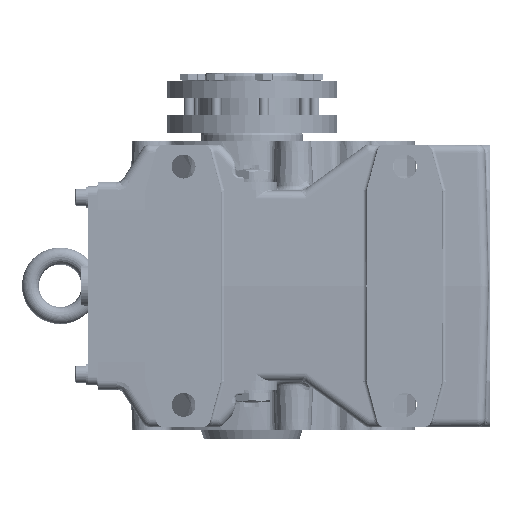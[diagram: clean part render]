
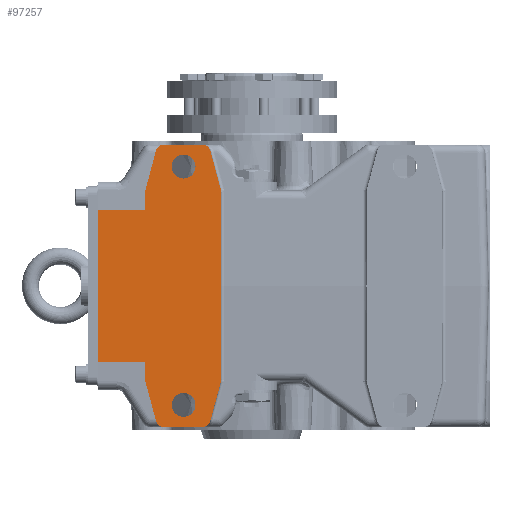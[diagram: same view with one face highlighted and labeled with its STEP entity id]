
A CAD part, left-side view. The second image highlights one B-rep face of the part: STEP entity #97257.
In plain terms, the highlighted planar face has unit normal (-1, 0, 0).
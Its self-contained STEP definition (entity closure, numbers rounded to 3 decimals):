
#53850=CARTESIAN_POINT('',(-90.,24.256,-79.297));
#53851=VERTEX_POINT('',#53850);
#53852=CARTESIAN_POINT('',(-90.,29.085,-83.));
#53853=VERTEX_POINT('',#53852);
#53854=CARTESIAN_POINT('',(-90.,29.085,-78.));
#53855=DIRECTION('',(1.0,0.0,0.0));
#53856=DIRECTION('',(0.0,-0.609,-0.794));
#53857=AXIS2_PLACEMENT_3D('',#53854,#53855,#53856);
#53858=CIRCLE('',#53857,5.0);
#53859=EDGE_CURVE('',#53851,#53853,#53858,.T.);
#53890=CARTESIAN_POINT('',(-90.,51.415,-83.));
#53891=VERTEX_POINT('',#53890);
#53892=CARTESIAN_POINT('',(-90.,29.085,-83.));
#53893=DIRECTION('',(0.0,1.0,0.0));
#53894=VECTOR('',#53893,22.331);
#53895=LINE('',#53892,#53894);
#53896=EDGE_CURVE('',#53853,#53891,#53895,.T.);
#54561=CARTESIAN_POINT('',(-90.,18.171,-56.637));
#54562=VERTEX_POINT('',#54561);
#54563=CARTESIAN_POINT('',(-90.0,18.171,-56.637));
#54564=DIRECTION('',(0.0,0.259,-0.966));
#54565=VECTOR('',#54564,23.462);
#54566=LINE('',#54563,#54565);
#54567=EDGE_CURVE('',#54562,#53851,#54566,.T.);
#54601=CARTESIAN_POINT('',(-90.,18.,-55.34));
#54602=VERTEX_POINT('',#54601);
#54603=CARTESIAN_POINT('',(-90.,23.,-55.34));
#54604=DIRECTION('',(1.0,0.0,0.0));
#54605=DIRECTION('',(0.0,-0.991,-0.131));
#54606=AXIS2_PLACEMENT_3D('',#54603,#54604,#54605);
#54607=CIRCLE('',#54606,5.0);
#54608=EDGE_CURVE('',#54602,#54562,#54607,.T.);
#54634=CARTESIAN_POINT('',(-90.,18.,-17.838));
#54635=VERTEX_POINT('',#54634);
#54636=CARTESIAN_POINT('',(-90.0,18.,-17.838));
#54637=DIRECTION('',(0.0,0.0,-1.0));
#54638=VECTOR('',#54637,37.503);
#54639=LINE('',#54636,#54638);
#54640=EDGE_CURVE('',#54635,#54602,#54639,.T.);
#54657=CARTESIAN_POINT('',(-90.,18.171,56.637));
#54658=VERTEX_POINT('',#54657);
#54659=CARTESIAN_POINT('',(-90.,18.,55.34));
#54660=VERTEX_POINT('',#54659);
#54661=CARTESIAN_POINT('',(-90.,23.,55.34));
#54662=DIRECTION('',(1.0,0.0,0.0));
#54663=DIRECTION('',(0.0,-0.991,0.131));
#54664=AXIS2_PLACEMENT_3D('',#54661,#54662,#54663);
#54665=CIRCLE('',#54664,5.0);
#54666=EDGE_CURVE('',#54658,#54660,#54665,.T.);
#58496=CARTESIAN_POINT('',(-90.,24.256,79.297));
#58497=VERTEX_POINT('',#58496);
#58498=CARTESIAN_POINT('',(-90.0,24.256,79.297));
#58499=DIRECTION('',(0.0,-0.259,-0.966));
#58500=VECTOR('',#58499,23.462);
#58501=LINE('',#58498,#58500);
#58502=EDGE_CURVE('',#58497,#54658,#58501,.T.);
#58729=CARTESIAN_POINT('',(-90.,17.945,0.));
#58730=VERTEX_POINT('',#58729);
#58731=CARTESIAN_POINT('',(-90.,16.,-17.838));
#58732=DIRECTION('',(-1.0,0.0,0.0));
#58733=DIRECTION('',(0.0,0.0,1.0));
#58734=AXIS2_PLACEMENT_3D('',#58731,#58732,#58733);
#58735=ELLIPSE('',#58734,76.403,2.0);
#58736=EDGE_CURVE('',#58730,#54635,#58735,.T.);
#58864=CARTESIAN_POINT('',(-90.,18.,17.838));
#58865=VERTEX_POINT('',#58864);
#58866=CARTESIAN_POINT('',(-90.,16.,17.838));
#58867=DIRECTION('',(-1.0,0.0,0.0));
#58868=DIRECTION('',(0.0,0.0,-1.0));
#58869=AXIS2_PLACEMENT_3D('',#58866,#58867,#58868);
#58870=ELLIPSE('',#58869,76.403,2.0);
#58871=EDGE_CURVE('',#58865,#58730,#58870,.T.);
#78901=CARTESIAN_POINT('',(-90.,56.244,-79.297));
#78902=VERTEX_POINT('',#78901);
#78903=CARTESIAN_POINT('',(-90.,62.329,-56.637));
#78904=VERTEX_POINT('',#78903);
#78905=CARTESIAN_POINT('',(-90.,56.244,-79.297));
#78906=DIRECTION('',(0.0,0.259,0.966));
#78907=VECTOR('',#78906,23.462);
#78908=LINE('',#78905,#78907);
#78909=EDGE_CURVE('',#78902,#78904,#78908,.T.);
#78940=CARTESIAN_POINT('',(-90.,51.415,-78.));
#78941=DIRECTION('',(1.0,0.0,0.0));
#78942=DIRECTION('',(0.0,0.609,-0.794));
#78943=AXIS2_PLACEMENT_3D('',#78940,#78941,#78942);
#78944=CIRCLE('',#78943,5.);
#78945=EDGE_CURVE('',#53891,#78902,#78944,.T.);
#96568=CARTESIAN_POINT('',(-90.,29.085,83.));
#96569=VERTEX_POINT('',#96568);
#96570=CARTESIAN_POINT('',(-90.,29.085,78.));
#96571=DIRECTION('',(1.0,0.0,0.0));
#96572=DIRECTION('',(0.0,-0.609,0.794));
#96573=AXIS2_PLACEMENT_3D('',#96570,#96571,#96572);
#96574=CIRCLE('',#96573,5.0);
#96575=EDGE_CURVE('',#96569,#58497,#96574,.T.);
#96593=CARTESIAN_POINT('',(-90.,51.415,83.));
#96594=VERTEX_POINT('',#96593);
#96595=CARTESIAN_POINT('',(-90.,51.415,83.));
#96596=DIRECTION('',(0.0,-1.0,0.0));
#96597=VECTOR('',#96596,22.331);
#96598=LINE('',#96595,#96597);
#96599=EDGE_CURVE('',#96594,#96569,#96598,.T.);
#96621=CARTESIAN_POINT('',(-90.0,18.,55.34));
#96622=DIRECTION('',(0.0,0.0,-1.0));
#96623=VECTOR('',#96622,37.503);
#96624=LINE('',#96621,#96623);
#96625=EDGE_CURVE('',#54660,#58865,#96624,.T.);
#96637=CARTESIAN_POINT('',(-90.,56.244,79.297));
#96638=VERTEX_POINT('',#96637);
#96639=CARTESIAN_POINT('',(-90.,51.415,78.));
#96640=DIRECTION('',(1.0,0.0,0.0));
#96641=DIRECTION('',(0.0,0.609,0.794));
#96642=AXIS2_PLACEMENT_3D('',#96639,#96640,#96641);
#96643=CIRCLE('',#96642,5.);
#96644=EDGE_CURVE('',#96638,#96594,#96643,.T.);
#96662=CARTESIAN_POINT('',(-90.,62.329,56.637));
#96663=VERTEX_POINT('',#96662);
#96664=CARTESIAN_POINT('',(-90.,62.329,56.637));
#96665=DIRECTION('',(0.0,-0.259,0.966));
#96666=VECTOR('',#96665,23.462);
#96667=LINE('',#96664,#96666);
#96668=EDGE_CURVE('',#96663,#96638,#96667,.T.);
#96694=CARTESIAN_POINT('',(-90.,62.5,55.34));
#96695=VERTEX_POINT('',#96694);
#96696=CARTESIAN_POINT('',(-90.,57.5,55.34));
#96697=DIRECTION('',(1.0,0.0,0.0));
#96698=DIRECTION('',(0.0,0.991,0.131));
#96699=AXIS2_PLACEMENT_3D('',#96696,#96697,#96698);
#96700=CIRCLE('',#96699,5.0);
#96701=EDGE_CURVE('',#96695,#96663,#96700,.T.);
#96727=CARTESIAN_POINT('',(-90.,62.5,-55.34));
#96728=VERTEX_POINT('',#96727);
#96729=CARTESIAN_POINT('',(-90.,62.5,-44.812));
#96730=VERTEX_POINT('',#96729);
#96731=CARTESIAN_POINT('',(-90.,62.5,-55.34));
#96732=DIRECTION('',(0.0,0.0,1.0));
#96733=VECTOR('',#96732,10.529);
#96734=LINE('',#96731,#96733);
#96735=EDGE_CURVE('',#96728,#96730,#96734,.T.);
#96759=CARTESIAN_POINT('',(-90.,62.5,44.812));
#96760=VERTEX_POINT('',#96759);
#96761=CARTESIAN_POINT('',(-90.,62.5,44.812));
#96762=DIRECTION('',(0.0,0.0,1.0));
#96763=VECTOR('',#96762,10.529);
#96764=LINE('',#96761,#96763);
#96765=EDGE_CURVE('',#96760,#96695,#96764,.T.);
#96782=CARTESIAN_POINT('',(-90.0,90.0,44.812));
#96783=VERTEX_POINT('',#96782);
#96790=CARTESIAN_POINT('',(-90.0,90.0,44.812));
#96791=DIRECTION('',(0.0,-1.0,0.0));
#96792=VECTOR('',#96791,27.5);
#96793=LINE('',#96790,#96792);
#96794=EDGE_CURVE('',#96783,#96760,#96793,.T.);
#96811=CARTESIAN_POINT('',(-90.0,90.0,-44.812));
#96812=VERTEX_POINT('',#96811);
#96839=CARTESIAN_POINT('',(-90.0,62.5,-44.812));
#96840=DIRECTION('',(0.0,1.0,0.0));
#96841=VECTOR('',#96840,27.5);
#96842=LINE('',#96839,#96841);
#96843=EDGE_CURVE('',#96730,#96812,#96842,.T.);
#96853=CARTESIAN_POINT('',(-90.,57.5,-55.34));
#96854=DIRECTION('',(1.0,0.0,0.0));
#96855=DIRECTION('',(0.0,0.991,-0.131));
#96856=AXIS2_PLACEMENT_3D('',#96853,#96854,#96855);
#96857=CIRCLE('',#96856,5.);
#96858=EDGE_CURVE('',#78904,#96728,#96857,.T.);
#97200=CARTESIAN_POINT('',(-90.,-15.242,0.735));
#97201=DIRECTION('',(1.0,0.0,0.0));
#97202=DIRECTION('',(0.0,0.0,-1.0));
#97203=AXIS2_PLACEMENT_3D('',#97200,#97201,#97202);
#97204=PLANE('',#97203);
#97205=CARTESIAN_POINT('',(-90.,90.0,44.812));
#97206=DIRECTION('',(0.0,0.0,-1.0));
#97207=VECTOR('',#97206,89.623);
#97208=LINE('',#97205,#97207);
#97209=EDGE_CURVE('',#96783,#96812,#97208,.T.);
#97210=ORIENTED_EDGE('',*,*,#97209,.T.);
#97211=ORIENTED_EDGE('',*,*,#96843,.F.);
#97212=ORIENTED_EDGE('',*,*,#96735,.F.);
#97213=ORIENTED_EDGE('',*,*,#96858,.F.);
#97214=ORIENTED_EDGE('',*,*,#78909,.F.);
#97215=ORIENTED_EDGE('',*,*,#78945,.F.);
#97216=ORIENTED_EDGE('',*,*,#53896,.F.);
#97217=ORIENTED_EDGE('',*,*,#53859,.F.);
#97218=ORIENTED_EDGE('',*,*,#54567,.F.);
#97219=ORIENTED_EDGE('',*,*,#54608,.F.);
#97220=ORIENTED_EDGE('',*,*,#54640,.F.);
#97221=ORIENTED_EDGE('',*,*,#58736,.F.);
#97222=ORIENTED_EDGE('',*,*,#58871,.F.);
#97223=ORIENTED_EDGE('',*,*,#96625,.F.);
#97224=ORIENTED_EDGE('',*,*,#54666,.F.);
#97225=ORIENTED_EDGE('',*,*,#58502,.F.);
#97226=ORIENTED_EDGE('',*,*,#96575,.F.);
#97227=ORIENTED_EDGE('',*,*,#96599,.F.);
#97228=ORIENTED_EDGE('',*,*,#96644,.F.);
#97229=ORIENTED_EDGE('',*,*,#96668,.F.);
#97230=ORIENTED_EDGE('',*,*,#96701,.F.);
#97231=ORIENTED_EDGE('',*,*,#96765,.F.);
#97232=ORIENTED_EDGE('',*,*,#96794,.F.);
#97233=EDGE_LOOP('',(#97210,#97211,#97212,#97213,#97214,#97215,#97216,#97217,#97218,#97219,#97220,#97221,#97222,#97223,#97224,#97225,#97226,#97227,#97228,#97229,#97230,#97231,#97232));
#97234=FACE_OUTER_BOUND('',#97233,.T.);
#97235=CARTESIAN_POINT('',(-90.,40.0,-63.0));
#97236=VERTEX_POINT('',#97235);
#97237=CARTESIAN_POINT('',(-90.,40.0,-70.0));
#97238=DIRECTION('',(1.0,0.0,0.0));
#97239=DIRECTION('',(0.0,0.0,1.0));
#97240=AXIS2_PLACEMENT_3D('',#97237,#97238,#97239);
#97241=CIRCLE('',#97240,7.);
#97242=EDGE_CURVE('',#97236,#97236,#97241,.T.);
#97243=ORIENTED_EDGE('',*,*,#97242,.T.);
#97244=EDGE_LOOP('',(#97243));
#97245=FACE_BOUND('',#97244,.T.);
#97246=CARTESIAN_POINT('',(-90.,40.0,77.0));
#97247=VERTEX_POINT('',#97246);
#97248=CARTESIAN_POINT('',(-90.,40.0,70.0));
#97249=DIRECTION('',(1.0,0.0,0.0));
#97250=DIRECTION('',(0.0,0.0,1.0));
#97251=AXIS2_PLACEMENT_3D('',#97248,#97249,#97250);
#97252=CIRCLE('',#97251,7.);
#97253=EDGE_CURVE('',#97247,#97247,#97252,.T.);
#97254=ORIENTED_EDGE('',*,*,#97253,.T.);
#97255=EDGE_LOOP('',(#97254));
#97256=FACE_BOUND('',#97255,.T.);
#97257=ADVANCED_FACE('',(#97234,#97245,#97256),#97204,.F.);
